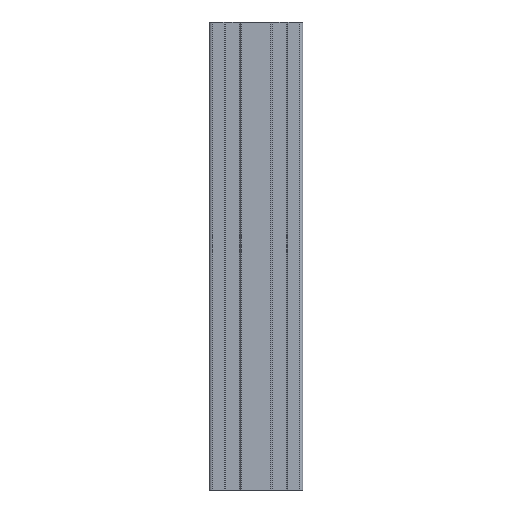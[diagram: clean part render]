
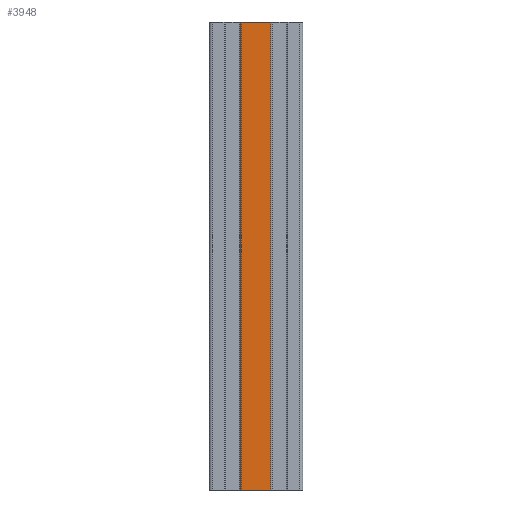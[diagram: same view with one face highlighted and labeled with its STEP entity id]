
A CAD part, left-side view. The second image highlights one B-rep face of the part: STEP entity #3948.
In plain terms, the highlighted planar face has unit normal (-1, 0, 0).
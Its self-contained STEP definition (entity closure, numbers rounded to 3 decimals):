
#125 = VECTOR ( 'NONE', #1223, 1000. ) ;
#293 = LINE ( 'NONE', #1787, #125 ) ;
#360 = FACE_OUTER_BOUND ( 'NONE', #5088, .T. ) ;
#433 = LINE ( 'NONE', #1009, #4633 ) ;
#743 = ORIENTED_EDGE ( 'NONE', *, *, #4164, .T. ) ;
#855 = CARTESIAN_POINT ( 'NONE',  ( 27611.237, -9670.785, 300. ) ) ;
#1009 = CARTESIAN_POINT ( 'NONE',  ( 27611.237, -9651.785, 300. ) ) ;
#1223 = DIRECTION ( 'NONE',  ( 0., 0., -1. ) ) ;
#1259 = EDGE_CURVE ( 'NONE', #3619, #4571, #1262, .T. ) ;
#1262 = LINE ( 'NONE', #2412, #6719 ) ;
#1686 = EDGE_CURVE ( 'NONE', #6768, #3346, #5120, .T. ) ;
#1787 = CARTESIAN_POINT ( 'NONE',  ( 27611.237, -9670.785, 300. ) ) ;
#1889 = CARTESIAN_POINT ( 'NONE',  ( 27611.237, -9651.785, 300. ) ) ;
#1940 = CARTESIAN_POINT ( 'NONE',  ( 27611.237, -9651.785, 300. ) ) ;
#2322 = VECTOR ( 'NONE', #3691, 1000. ) ;
#2412 = CARTESIAN_POINT ( 'NONE',  ( 27611.237, -9651.785, 0. ) ) ;
#2423 = DIRECTION ( 'NONE',  ( 0., 0., -1. ) ) ;
#2497 = EDGE_CURVE ( 'NONE', #3346, #4571, #293, .T. ) ;
#2960 = CARTESIAN_POINT ( 'NONE',  ( 27611.237, -9670.785, 0. ) ) ;
#3170 = CARTESIAN_POINT ( 'NONE',  ( 27611.237, -9651.785, 300. ) ) ;
#3288 = ORIENTED_EDGE ( 'NONE', *, *, #1259, .T. ) ;
#3346 = VERTEX_POINT ( 'NONE', #855 ) ;
#3456 = PLANE ( 'NONE',  #5781 ) ;
#3495 = DIRECTION ( 'NONE',  ( 0., -1., 0. ) ) ;
#3619 = VERTEX_POINT ( 'NONE', #5325 ) ;
#3691 = DIRECTION ( 'NONE',  ( 0., -1., 0. ) ) ;
#3948 = ADVANCED_FACE ( 'NONE', ( #360 ), #3456, .F. ) ;
#4164 = EDGE_CURVE ( 'NONE', #6768, #3619, #433, .T. ) ;
#4400 = ORIENTED_EDGE ( 'NONE', *, *, #2497, .F. ) ;
#4571 = VERTEX_POINT ( 'NONE', #2960 ) ;
#4633 = VECTOR ( 'NONE', #5209, 1000. ) ;
#5088 = EDGE_LOOP ( 'NONE', ( #3288, #4400, #5435, #743 ) ) ;
#5120 = LINE ( 'NONE', #3170, #2322 ) ;
#5209 = DIRECTION ( 'NONE',  ( 0., 0., -1. ) ) ;
#5325 = CARTESIAN_POINT ( 'NONE',  ( 27611.237, -9651.785, 0. ) ) ;
#5435 = ORIENTED_EDGE ( 'NONE', *, *, #1686, .F. ) ;
#5571 = DIRECTION ( 'NONE',  ( 1., 0., 0. ) ) ;
#5781 = AXIS2_PLACEMENT_3D ( 'NONE', #1889, #5571, #2423 ) ;
#6719 = VECTOR ( 'NONE', #3495, 1000. ) ;
#6768 = VERTEX_POINT ( 'NONE', #1940 ) ;
